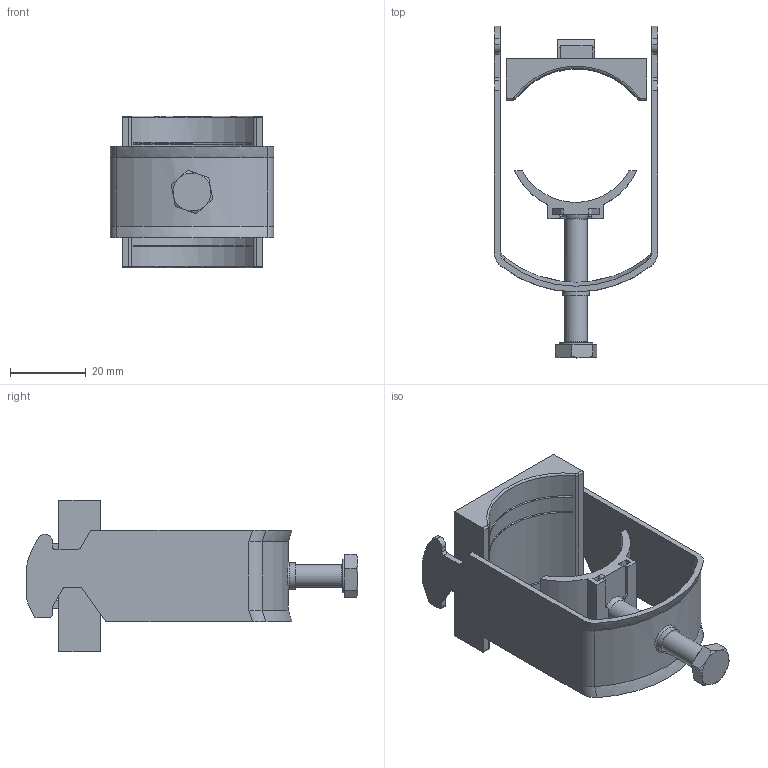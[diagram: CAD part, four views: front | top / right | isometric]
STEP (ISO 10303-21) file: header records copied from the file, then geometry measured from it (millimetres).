
FILE_DESCRIPTION(('STEP AP214'), '1');
FILE_NAME('Çàæèì êàáåëüíûé, 30-38', '2025-12-03T09:40:09', (''), (''), 'ASCON STEP Converter 1.6', 'ASCON Math Kernel', '');
FILE_SCHEMA(('AUTOMOTIVE_DESIGN { 1 0 10303 214 3 1 1}'));
Length unit declared in the file: millimetre
Bounding box: 43 x 87.39 x 40 mm (x, y, z)
Volume: 15162 mm3; surface area: 17215.9 mm2
Topology: 3 solids, 4 shells, 209 faces, 545 edges, 351 vertices
Faces by surface type: plane 110, cylinder 55, bspline 20, torus 12, cone 11, sphere 1
Full cylindrical faces by diameter (mm): 5 x1, 6 x1, 7 x1, 8.88 x1
Entity records: 10129 total; most frequent: CARTESIAN_POINT 3321, ORIENTED_EDGE 1064, DIRECTION 1029, EDGE_CURVE 532, AXIS2_PLACEMENT_3D 349, VERTEX_POINT 349, LINE 331, VECTOR 331
